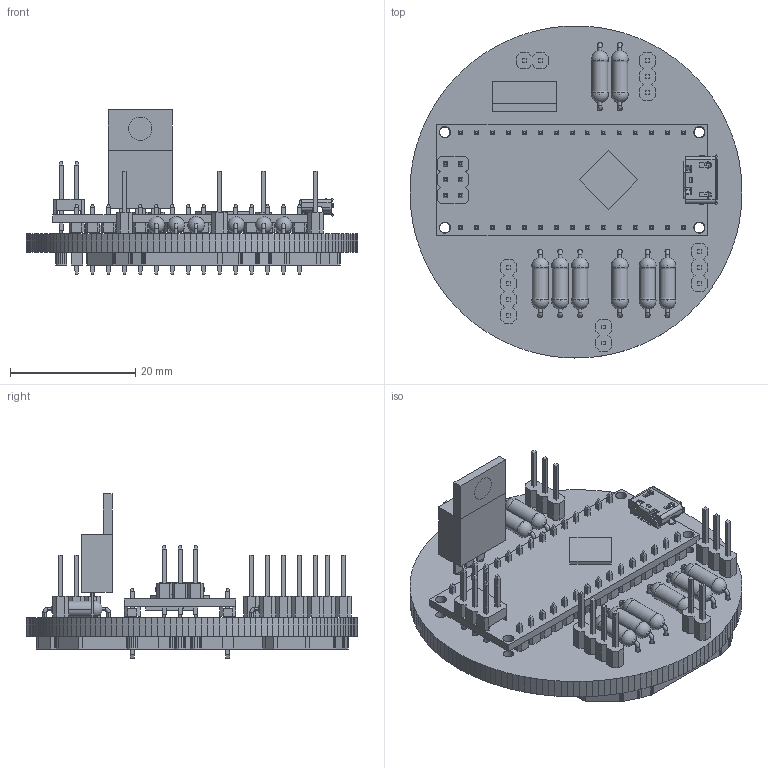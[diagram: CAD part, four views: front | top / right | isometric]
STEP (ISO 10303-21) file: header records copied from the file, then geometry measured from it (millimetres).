
FILE_DESCRIPTION (( 'STEP AP214' ), '1' );
FILE_NAME ('TeeHase_final15', '', ( '' ), ( '' ), 'STEP 3.0', 'TARGET 3001!', '' );
FILE_SCHEMA (( 'AUTOMOTIVE_DESIGN' ));
Length unit declared in the file: inch
Products named in the file (71): TeeHase_final15; Board_assembly; Board; PadsAndTracks_assembly; PadsAndTracks_2_assembly; PadsAndTracks_2; PadsAndTracks_1_assembly; PadsAndTracks_1; PadsAndTracks_OUT_assembly; PadsAndTracks_OUT; PadsAndTracks_D11/MOSI_assembly; PadsAndTracks_D11/MOSI; PadsAndTracks_D10_assembly; PadsAndTracks_D10; PadsAndTracks_D6_assembly; PadsAndTracks_D6; PadsAndTracks_D5_assembly; PadsAndTracks_D5; PadsAndTracks_D3_assembly; PadsAndTracks_D3; PadsAndTracks_Sig$15_assembly; PadsAndTracks_Sig$15; PadsAndTracks_A1_assembly; PadsAndTracks_A1; PadsAndTracks_3_assembly; PadsAndTracks_3; PadsAndTracks_Sig$25_assembly; PadsAndTracks_Sig$25; PadsAndTracks_Sig$48_assembly; PadsAndTracks_Sig$48; PadsAndTracks_Sig$49_assembly; PadsAndTracks_Sig$49; PadsAndTracks_Sig$50_assembly; PadsAndTracks_Sig$50; PadsAndTracks_free_assembly; PadsAndTracks_free; Arduino_Nano_Rev3.0 User Library-Arduino nano-1; Arduino_Nano_Rev3.0 User Library-Arduino nano-1_pin_header_aw_109_16-t_15 Pin; Arduino_Nano_Rev3.0 User Library-Arduino nano-1_pin_header_aw254-dg-g32d_6 Pin; Arduino_Nano_Rev3.0 User Library-Arduino nano-1_User Library-Micro USB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
Assembly tree (71 placements, depth 5):
  TeeHase_final15
    Board_assembly
      Board
    PadsAndTracks_assembly
      PadsAndTracks_2_assembly
        PadsAndTracks_2
      PadsAndTracks_1_assembly
        PadsAndTracks_1
      PadsAndTracks_OUT_assembly
        PadsAndTracks_OUT
      PadsAndTracks_D11/MOSI_assembly
        PadsAndTracks_D11/MOSI
      PadsAndTracks_D10_assembly
        PadsAndTracks_D10
      PadsAndTracks_D6_assembly
        PadsAndTracks_D6
      PadsAndTracks_D5_assembly
        PadsAndTracks_D5
      PadsAndTracks_D3_assembly
        PadsAndTracks_D3
      PadsAndTracks_Sig$15_assembly
        PadsAndTracks_Sig$15
      PadsAndTracks_A1_assembly
        PadsAndTracks_A1
      PadsAndTracks_3_assembly
        PadsAndTracks_3
      PadsAndTracks_Sig$25_assembly
        PadsAndTracks_Sig$25
      PadsAndTracks_Sig$48_assembly
        PadsAndTracks_Sig$48
      PadsAndTracks_Sig$49_assembly
        PadsAndTracks_Sig$49
      PadsAndTracks_Sig$50_assembly
        PadsAndTracks_Sig$50
      PadsAndTracks_free_assembly
        PadsAndTracks_free
    IC1_assembly
      IC1_step1_assembly
        Arduino_Nano_Rev3.0 User Library-Arduino nano-1
          Arduino_Nano_Rev3.0 User Library-Arduino nano-1_Arduino Mini
          Arduino_Nano_Rev3.0 User Library-Arduino nano-1_User Library-Micro USB
          Arduino_Nano_Rev3.0 User Library-Arduino nano-1_pin_header_aw254-dg-g32d_6 Pin
          Arduino_Nano_Rev3.0 User Library-Arduino nano-1_pin_header_aw_109_16-t_15 Pin  x2
    IC2_assembly
      IC2
    R1_assembly
      R1
    R2_assembly
      R2
    R3_assembly
      R3
    R4_assembly
      R4
    R5_assembly
      R5
    R6_assembly
      R6
    R7_assembly
      R7
    K1_assembly
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Bounding box: 53 x 53 x 26.25 mm (x, y, z)
Volume: 10301.4 mm3; surface area: 15275.4 mm2
Topology: 194 solids, 194 shells, 3698 faces, 9481 edges, 6205 vertices
Faces by surface type: plane 3166, cylinder 495, sphere 21, torus 16
Entity records: 86682 total; most frequent: ORIENTED_EDGE 16732, DIRECTION 12098, CARTESIAN_POINT 9675, EDGE_CURVE 8366, LINE 7314, VECTOR 7136, VERTEX_POINT 5513, EDGE_LOOP 3623
